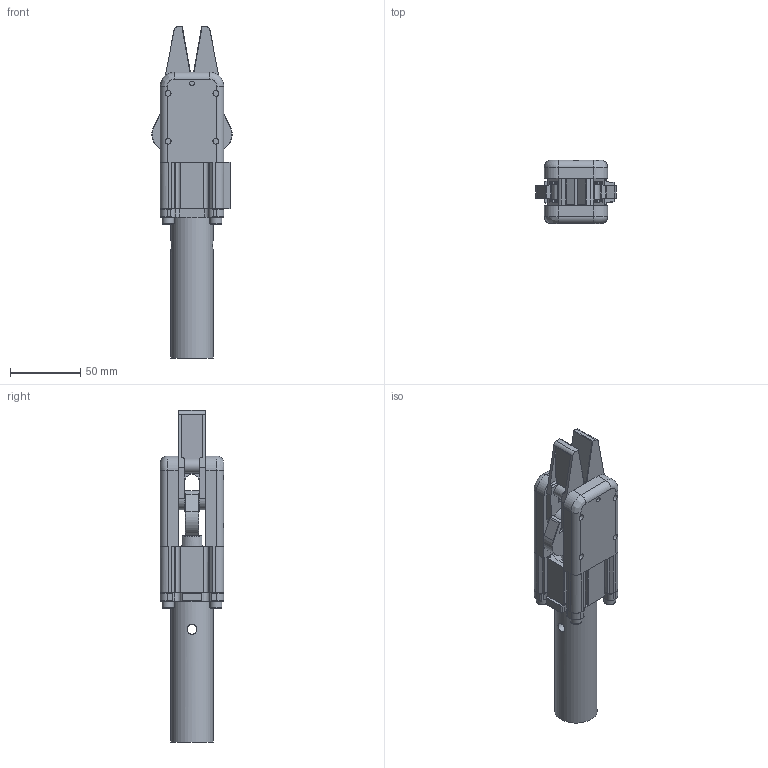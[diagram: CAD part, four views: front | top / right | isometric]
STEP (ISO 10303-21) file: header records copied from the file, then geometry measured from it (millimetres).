
FILE_DESCRIPTION(/* description */ (''),/* implementation_level */ '2;1');
FILE_NAME(/* name */ '8Y00412-GRP32C--30.stp',/* time_stamp */ '2023-02-22T14:42:16+08:00',/* author */ (''),/* organization */ (''),/* preprocessor_version */ 'ST-DEVELOPER v16',/* originating_system */ 'SIEMENS PLM Software NX 10.0',/* authorisation */ '');
FILE_SCHEMA (('AUTOMOTIVE_DESIGN { 1 0 10303 214 3 1 1 1 }'));
Length unit declared in the file: millimetre
Products named in the file (1): _model48
Bounding box: 56.95 x 45 x 235.8 mm (x, y, z)
Volume: 206756.1 mm3; surface area: 81587.2 mm2
Topology: 11 solids, 17 shells, 637 faces, 1527 edges, 946 vertices
Faces by surface type: plane 373, cylinder 170, cone 85, torus 7, bspline 2
Full cylindrical faces by diameter (mm): 3.3 x1, 4 x1, 4.1 x1, 4.2 x8, 4.5 x1, 5 x4, 5.2 x4, 5.5 x4, 6 x9, 6.647 x1, 6.8 x1, 7 x3, 8 x6, 8.5 x4, 8.566 x2, 8.6 x1, 9 x8, 10 x6, 13 x1, 14 x1, 15 x2, 16 x2, 17 x12, 21 x1, 30 x1, 32 x1, 34 x2
Entity records: 21993 total; most frequent: CARTESIAN_POINT 3288, DIRECTION 3083, ORIENTED_EDGE 2634, EDGE_CURVE 1317, AXIS2_PLACEMENT_3D 1153, VERTEX_POINT 908, EDGE_LOOP 863, LINE 777
